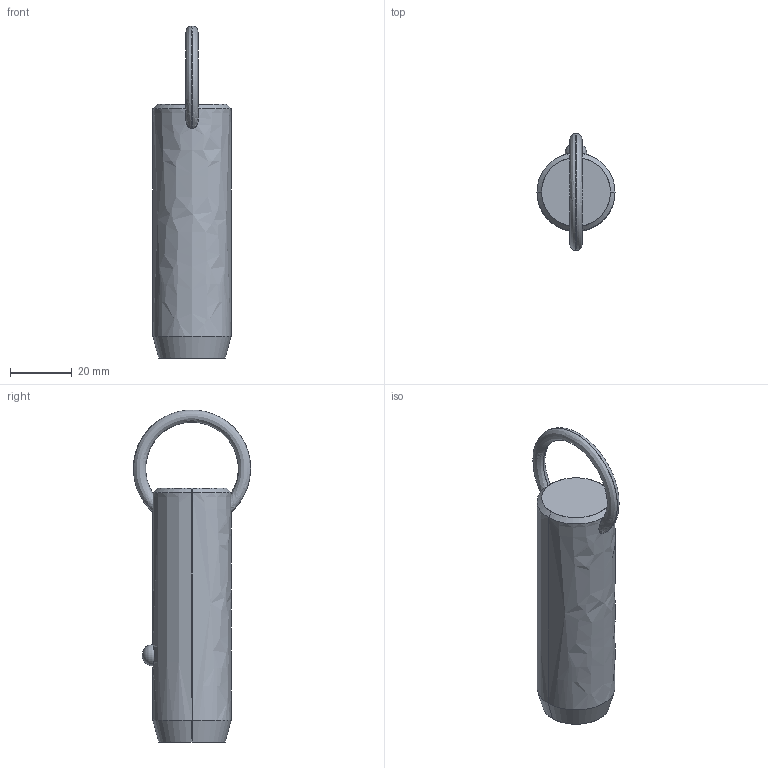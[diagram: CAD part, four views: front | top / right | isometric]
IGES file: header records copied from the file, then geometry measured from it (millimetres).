
Start section: SolidWorks IGES file using analytic representation for surfaces
Global section: file name: C:\Users\liam_\OneDrive\Documents\WORK\Work for WixRoyd\Job Files\J-00019 - Matt Davis CAD Checking\04. CAD Drawings\automotion20190605\P1250.2_v2\P1250.2_v2_20190729_IGES\P1250.100-150.igs; native system: SolidWorks 2017; preprocessor: SolidWorks 2017; author: liam_; date: 190730.173344; units: millimetre
Bounding box: 25.4 x 38.1 x 107.89 mm (x, y, z)
Surface area: 8356.5 mm2 (no closed solid volume)
Topology: 0 solids, 0 shells, 12 faces, 298 edges, 296 vertices
Faces by surface type: revolution 8, bspline 4
